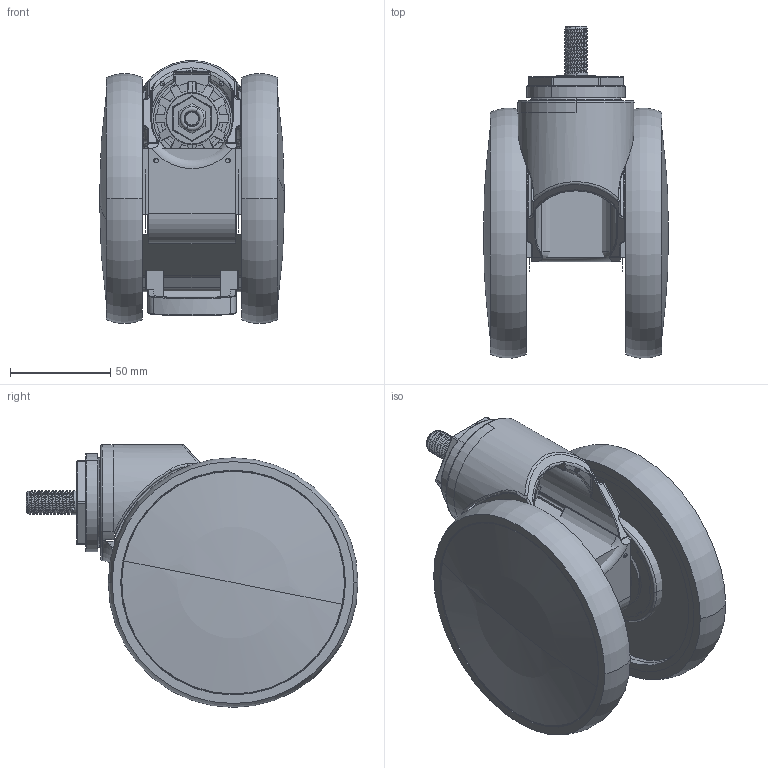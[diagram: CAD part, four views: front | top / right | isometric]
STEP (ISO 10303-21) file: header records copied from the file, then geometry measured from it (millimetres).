
FILE_DESCRIPTION((''),'2;1');
FILE_NAME('PRT0012','2025-06-24T09:51:43',('Administrator'),(''),'CREO PARAMETRIC BY PTC INC, 2022124','CREO PARAMETRIC BY PTC INC, 2022124','');
FILE_SCHEMA(('AP203_CONFIGURATION_CONTROLLED_3D_DESIGN_OF_MECHANICAL_PARTS_AND_ASSEMBLIES_MIM_LF { 1 0 10303 403 2 1 2 }'));
Length unit declared in the file: millimetre
Products named in the file (1): PRT0012
Bounding box: 92.5 x 165.92 x 131.42 mm (x, y, z)
Surface area: 108943.4 mm2 (no closed solid volume)
Topology: 0 solids, 63 shells, 380 faces, 1830 edges, 1476 vertices
Faces by surface type: cylinder 132, plane 92, torus 62, bspline 61, cone 25, extrusion 4, sphere 4
Entity records: 30467 total; most frequent: CARTESIAN_POINT 14222, DIRECTION 2674, ORIENTED_EDGE 2448, EDGE_CURVE 1826, VERTEX_POINT 1476, AXIS2_PLACEMENT_3D 1026, CIRCLE 701, VECTOR 619
